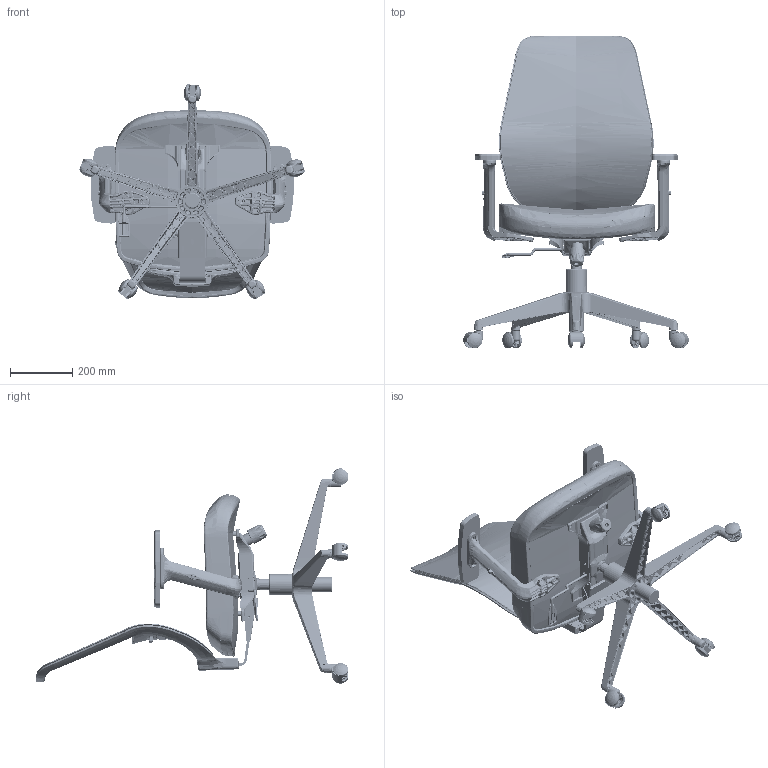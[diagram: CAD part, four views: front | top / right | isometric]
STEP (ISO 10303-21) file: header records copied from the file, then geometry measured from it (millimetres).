
FILE_DESCRIPTION((''),'2;1');
FILE_NAME('NERO_2_VERSION_BLACK_CHAIR_2707_ASM','2024-07-28T',('shailendra.shah'),(''),'PRO/ENGINEER BY PARAMETRIC TECHNOLOGY CORPORATION, 2016100','PRO/ENGINEER BY PARAMETRIC TECHNOLOGY CORPORATION, 2016100','');
FILE_SCHEMA(('CONFIG_CONTROL_DESIGN'));
Length unit declared in the file: millimetre
Products named in the file (88): MANIFOLD_SOLID_BREP-15809_AF0_1; MANIFOLD_SOLID_BREP-15807_AF0__; MANIFOLD_SOLID_BREP-15805_AF0_1; MANIFOLD_SOLID_BREP-15803_AF0_1; ASM0010_AF0_ASM_4__ASM_1_ASM_1__ASM; ASM0009_AF0_ASM_4__ASM_2_ASM_1__ASM; MANIFOLD_SOLID_BREP_1901__1_1_1; MANIFOLD_SOLID_BREP_2218__1_1_1; _ASM0008_1__ASM_2_ASM_1_ASM_1_A_ASM; ASM0008_AF0_ASM_1__ASM_4_ASM_1__ASM; MANIFOLD_SOLID_BREP-15759_2__1_; ASM0010_ASM_4__ASM_2_1_1_1; ARM_ASM_3__1_1_1_1; MANIFOLD_SOLID_BREP-3_AF0_1__1_; MANIFOLD_SOLID_BREP-1_AF0_1__1_; A1_ASM_4__ASM_1_ASM_1_ASM_1_ASM_ASM; BASE_ASSLY_ASM_4__ASM_4_ASM_1_A_ASM; ASM0087__ASM_1_ASM_1_ASM_1_ASM__ASM; MANIFOLD_SOLID_BREP-1359___1_1_; MANIFOLD_SOLID_BREP-1357___1_1_; MANIFOLD_SOLID_BREP-1355___1_1_; MANIFOLD_SOLID_BREP-1353___1_1_; MANIFOLD_SOLID_BREP-1351___1_1_; MANIFOLD_SOLID_BREP-1349___1_1_; MANIFOLD_SOLID_BREP-1347___1_1_; MANIFOLD_SOLID_BREP-1341___1_1_; MANIFOLD_SOLID_BREP-1339___1_1_; MANIFOLD_SOLID_BREP-1337___1_1_; MANIFOLD_SOLID_BREP-1335___1_1_; MANIFOLD_SOLID_BREP-1333___1_1_; PUR09913___1_1_1_1; PUR09901___1_1_1_1; A_C0F7A4BC0___1_1_1_1; PUR09902___1_1_1_1; PUR09904___1_1_1_1; PUR09903___1_1_1_1; PUR09899___1_1_1_1; G_S_LEVER_KNOB__LIFT____1_1_1_1; _MECHANISM___1_1_1_1; MECHANISM1__ASM_1_ASM_1_ASM_1_A_ASM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
Assembly tree (92 placements, depth 11):
  NERO_2_VERSION_BLACK_CHAIR_2707_ASM
    A1_ASM_4_ASM
      FLUENCE_2_VERSION_26072-1345288_ASM
        ASM0086_ASM_1_ASM_1_ASM_1_ASM
          FLUENCE_2_VERSION_260720-274140_ASM
            ASM0087__ASM_1_ASM_1_ASM_1_ASM__ASM
              BASE_ASSLY_ASM_4__ASM_4_ASM_1_A_ASM
                ASM0008_AF0_ASM_1__ASM_4_ASM_1__ASM
                  ASM0009_AF0_ASM_4__ASM_2_ASM_1__ASM
                  _ASM0008_1__ASM_2_ASM_1_ASM_1_A_ASM
                MANIFOLD_SOLID_BREP-15759_2__1_
                ASM0010_ASM_4__ASM_2_1_1_1
                ARM_ASM_3__1_1_1_1
                A1_ASM_4__ASM_1_ASM_1_ASM_1_ASM_ASM
                  MANIFOLD_SOLID_BREP-3_AF0_1__1_
                  MANIFOLD_SOLID_BREP-1_AF0_1__1_
            MECHANISM1__ASM_1_ASM_1_ASM_1_A_ASM
              MANIFOLD_SOLID_BREP-1359___1_1_
              MANIFOLD_SOLID_BREP-1357___1_1_
              MANIFOLD_SOLID_BREP-1355___1_1_
              MANIFOLD_SOLID_BREP-1353___1_1_
              MANIFOLD_SOLID_BREP-1351___1_1_
              MANIFOLD_SOLID_BREP-1349___1_1_
              MANIFOLD_SOLID_BREP-1347___1_1_
              MANIFOLD_SOLID_BREP-1341___1_1_
              MANIFOLD_SOLID_BREP-1339___1_1_
              MANIFOLD_SOLID_BREP-1337___1_1_
              MANIFOLD_SOLID_BREP-1335___1_1_
              MANIFOLD_SOLID_BREP-1333___1_1_
              PUR09913___1_1_1_1
              PUR09901___1_1_1_1
              A_C0F7A4BC0___1_1_1_1
              PUR09902___1_1_1_1
              PUR09904___1_1_1_1
              PUR09903___1_1_1_1
              PUR09899___1_1_1_1
              G_S_LEVER_KNOB__LIFT____1_1_1_1
              _MECHANISM___1_1_1_1
            CASTOR_ASM_17__ASM_1_ASM_1_ASM__ASM  x5
              PRT0001_5__1_1_1_1
              PRT0002_15__2_ASM_1_ASM_1_ASM_1_ASM
                BREP_WITH_VOIDS_364073_1_1_1
                MANIFOLD_SOLID_BREP_364190_1_1_
            QUEST_SEAT_WOOD_1_1_1_1
            FLUENCE_FOAM_THICKNESSINC_1_1_1
            NERO_CHR_UPGRADED_260724_ASM_7__ASM
              NERO_CHAIR_-_UPGRADED_VER_ASM_2_ASM
                3D_CAD_BLOCK_--_NERO_CHR__ASM_3_ASM
                  MANIFOLD_SOLID_BREP-1875_1__4_1
                  _3D_CAD_BLOCK_--_NERO_C_1_1_1_1
                FINAL_LOTUS_WITHLOGO_ASM_ASM_1__ASM
                  PRT0011_1_ASM_1_ASM_1__ASM_5_AS_ASM
              LUMBAR_EXISTING_NERO__ASM_2_ASM_ASM
                LUMBAR_SUPP_NERO_020624___1_1_1
                PRT0452___1_1_1_1
            ARM_ASSEMBLY_ASM_2_ASM_1_ASM_1__ASM
              MANIFOLD_SOLID_BREP-15_1_1_1_1
              MANIFOLD_SOLID_BREP-13_1_1_1_1
              MANIFOLD_SOLID_BREP-7_1_1_1_1
            PRT0550_1_1_1_1
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Bounding box: 727.04 x 1006.91 x 693.28 mm (x, y, z)
Volume: 761411 mm3; surface area: 3616915.4 mm2
Topology: 4 solids, 14714 shells, 17837 faces, 82533 edges, 78950 vertices
Faces by surface type: bspline 8970, cylinder 3323, plane 3072, extrusion 990, torus 789, sphere 351, cone 322, revolution 20
Entity records: 1481389 total; most frequent: CARTESIAN_POINT 1049730, ORIENTED_EDGE 79492, EDGE_CURVE 71039, VERTEX_POINT 67935, B_SPLINE_CURVE_WITH_KNOTS 52151, DIRECTION 39192, EDGE_LOOP 16132, FACE_OUTER_BOUND 15904
